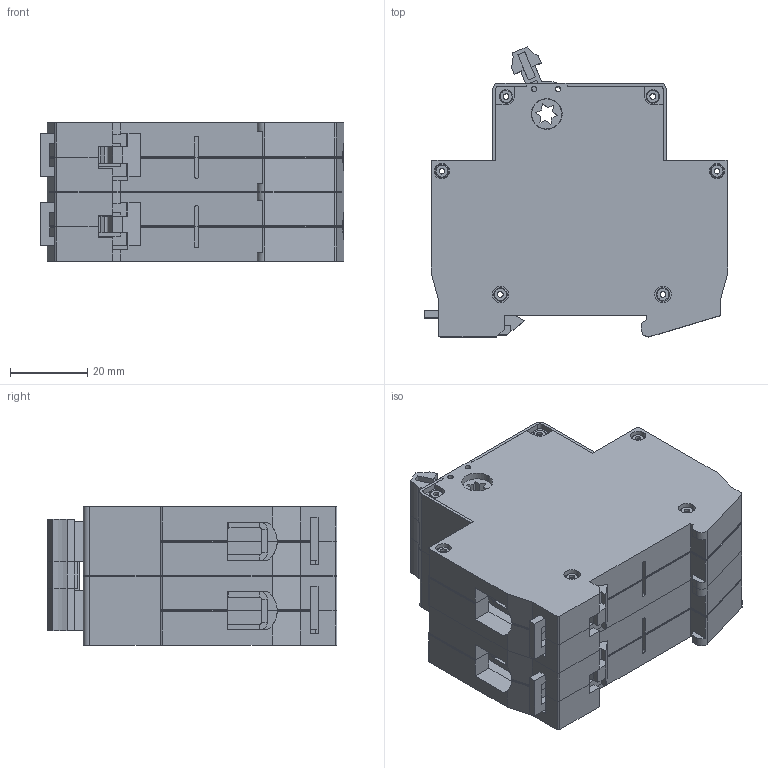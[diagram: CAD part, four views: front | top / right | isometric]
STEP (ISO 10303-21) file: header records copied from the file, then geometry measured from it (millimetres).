
FILE_DESCRIPTION (( 'STEP AP214' ), '1' );
FILE_NAME ('蟬-32 2 瀁錌黟.STEP', '2022-11-18T10:08:35', ( '' ), ( '' ), 'SwSTEP 2.0', 'SolidWorks 2018', '' );
FILE_SCHEMA (( 'AUTOMOTIVE_DESIGN' ));
Length unit declared in the file: millimetre
Products named in the file (13): Çàùåëêà (ÂÀ47-29 Changan) 04.2022; Êîëîäêà ÂÍ32 (4.04.2022); 蟬-32 2 瀁錌黟; 青觌屣赅 峦32 Changan_33; öâåòíàÿ âñòàâêà_§¥«ñ­ ï; ÂÍ-32 1Õ Changan_1 ¤«ï 2; Áîêîâèíà ïðàâàÿ ÂÍ32 Changan(4.04.2022); 鎔艜 蟬32 (4.04.2022); 褪浯 糂粲濱red; Ðó÷êà ÂÍ32 Changan; ìåæïîëþñíàÿ âñòàâêà äëÿ ÂÍ32; ﾂﾍ-32 1ﾕ Changan_尚皚･､ｭｨｩ ｯｮｫ髜; Áîêîâèíà ëåâàÿ ÂÍ32 Changan(4.04.2022)
Assembly tree (29 placements, depth 3):
  蟬-32 2 瀁錌黟
    ÂÍ-32 1Õ Changan_1 ¤«ï 2
      Áîêîâèíà ïðàâàÿ ÂÍ32 Changan(4.04.2022)
      Áîêîâèíà ëåâàÿ ÂÍ32 Changan(4.04.2022)
      Çàùåëêà (ÂÀ47-29 Changan) 04.2022
      Ðó÷êà ÂÍ32 Changan
      鎔艜 蟬32 (4.04.2022)  x2
      Êîëîäêà ÂÍ32 (4.04.2022)  x2
      青觌屣赅 峦32 Changan_33  x6
      öâåòíàÿ âñòàâêà_§¥«ñ­ ï
      褪浯 糂粲濱red
    ﾂﾍ-32 1ﾕ Changan_尚皚･､ｭｨｩ ｯｮｫ髜
      Áîêîâèíà ïðàâàÿ ÂÍ32 Changan(4.04.2022)
      Áîêîâèíà ëåâàÿ ÂÍ32 Changan(4.04.2022)
      Çàùåëêà (ÂÀ47-29 Changan) 04.2022
      Ðó÷êà ÂÍ32 Changan
      鎔艜 蟬32 (4.04.2022)  x2
      Êîëîäêà ÂÍ32 (4.04.2022)  x2
      öâåòíàÿ âñòàâêà_§¥«ñ­ ï
      褪浯 糂粲濱red
      ìåæïîëþñíàÿ âñòàâêà äëÿ ÂÍ32
Bounding box: 78.8 x 75.18 x 36 mm (x, y, z)
Volume: 113000.4 mm3; surface area: 68336.1 mm2
Topology: 27 solids, 27 shells, 1716 faces, 4578 edges, 2946 vertices
Faces by surface type: plane 1182, cylinder 434, torus 88, cone 12
Entity records: 21559 total; most frequent: CARTESIAN_POINT 3790, ORIENTED_EDGE 3608, DIRECTION 3555, EDGE_CURVE 1804, LINE 1367, VECTOR 1367, VERTEX_POINT 1177, AXIS2_PLACEMENT_3D 1094
